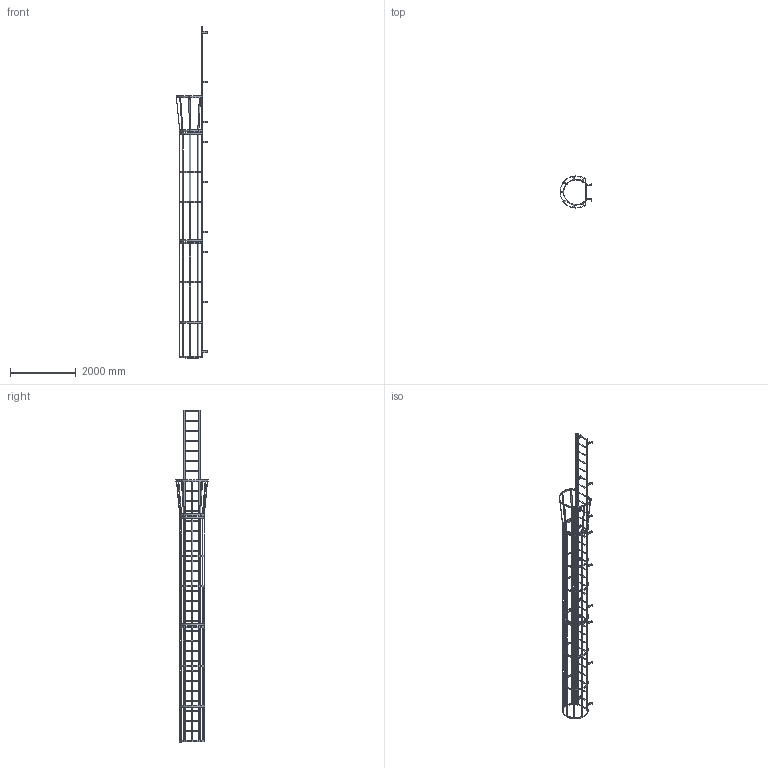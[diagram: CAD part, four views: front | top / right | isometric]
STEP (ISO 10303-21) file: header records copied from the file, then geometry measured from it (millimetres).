
FILE_DESCRIPTION(/* description */ (''),/* implementation_level */ '2;1');
FILE_NAME(/* name */ 'P:\MIKEL & KAREN\D0570195-20 F34SC SIMPLIFIED PART.stp',/* time_stamp */ '2018-07-03T08:12:17-04:00',/* author */ ('stephanie'),/* organization */ (''),/* preprocessor_version */ 'ST-DEVELOPER v16.1',/* originating_system */ 'Autodesk Inventor 2016',/* authorisation */ '');
FILE_SCHEMA (('AUTOMOTIVE_DESIGN { 1 0 10303 214 3 1 1 }'));
Length unit declared in the file: centimetre
Products named in the file (1): D0570195-20 F34SC SIMPLIFIED PART
Bounding box: 974.15 x 977.88 x 10134.6 mm (x, y, z)
Volume: 34425355 mm3; surface area: 12249631.8 mm2
Topology: 45 solids, 45 shells, 976 faces, 2944 edges, 1910 vertices
Faces by surface type: plane 650, cylinder 326
Full cylindrical faces by diameter (mm): 14.287 x22, 19.05 x34, 22.225 x68
Entity records: 33310 total; most frequent: ORIENTED_EDGE 5630, CARTESIAN_POINT 5527, DIRECTION 5501, EDGE_CURVE 2730, LINE 1913, VECTOR 1913, VERTEX_POINT 1820, AXIS2_PLACEMENT_3D 1794
